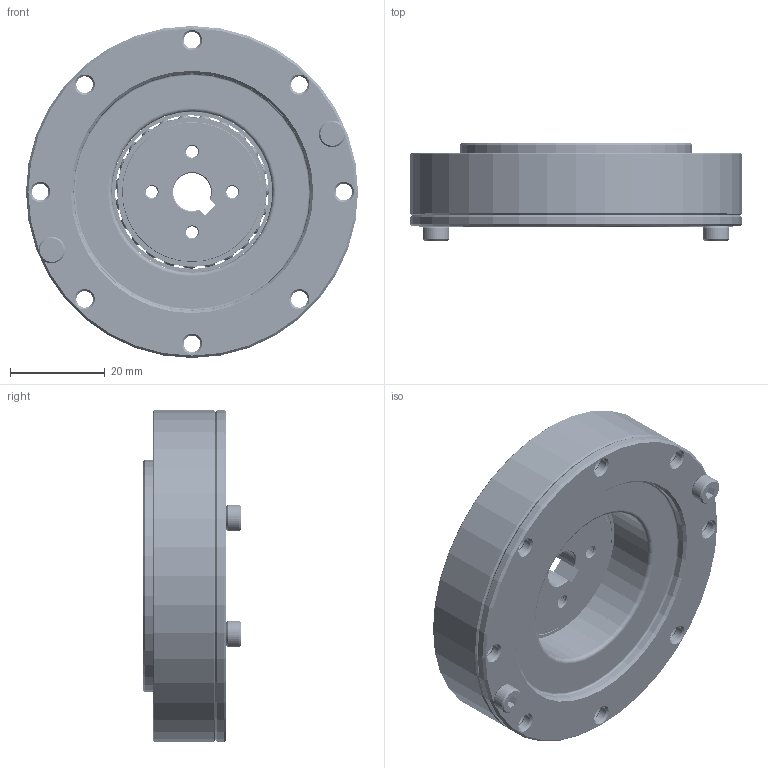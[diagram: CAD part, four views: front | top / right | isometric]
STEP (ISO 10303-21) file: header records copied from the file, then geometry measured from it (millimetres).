
FILE_DESCRIPTION(/* description */ (''),/* implementation_level */ '2;1');
FILE_NAME(/* name */ 'HBD14.stp',/* time_stamp */ '2023-02-20T14:41:54+08:00',/* author */ (''),/* organization */ (''),/* preprocessor_version */ 'ST-DEVELOPER v16',/* originating_system */ 'SIEMENS PLM Software NX 10.0',/* authorisation */ '');
FILE_SCHEMA (('CONFIG_CONTROL_DESIGN'));
Products named in the file (1): HBD14
Bounding box: 70 x 20.5 x 70 mm (x, y, z)
Volume: 41442.2 mm3; surface area: 41654.3 mm2
Topology: 37 solids, 37 shells, 633 faces, 1654 edges, 1076 vertices
Faces by surface type: plane 215, cylinder 159, cone 130, bspline 57, extrusion 37, sphere 23, torus 12
Full cylindrical faces by diameter (mm): 2.3 x1, 3.5 x28, 4 x1, 5.6 x2, 24 x1, 25.07 x1, 26 x1, 26.67 x2, 27 x1, 28.4 x1, 29.5 x1, 31.5 x1, 32.396 x2, 33.896 x2, 34.85 x1, 35.996 x1, 37.4 x1, 38.1 x1, 38.5 x1, 39 x1, 45 x1, 49 x3, 49.991 x1, 50.7 x2, 52 x1, 52.8 x1, 55 x1, 56 x1, 57 x1, 58 x2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
Entity records: 91169 total; most frequent: CARTESIAN_POINT 77668, ORIENTED_EDGE 2594, DIRECTION 2509, EDGE_CURVE 1297, AXIS2_PLACEMENT_3D 1062, VERTEX_POINT 981, EDGE_LOOP 923, ADVANCED_FACE 632
